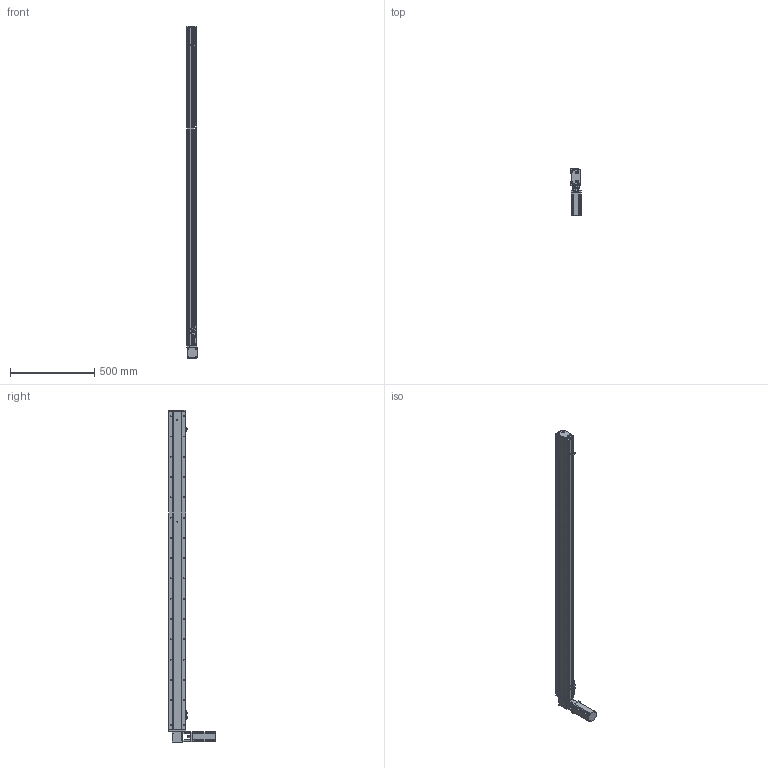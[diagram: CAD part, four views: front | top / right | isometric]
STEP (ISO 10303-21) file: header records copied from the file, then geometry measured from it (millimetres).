
FILE_DESCRIPTION (( 'STEP AP214' ), '1' );
FILE_NAME ('KSD100B-S1700-MLT-CM.STEP', '2019-10-26T06:03:36', ( '微软用户' ), ( '微软中国' ), 'SwSTEP 2.0', 'SolidWorks 2014', '' );
FILE_SCHEMA (( 'AUTOMOTIVE_DESIGN' ));
Length unit declared in the file: millimetre
Products named in the file (12): 100宽底板半封闭同步带1700行程; KSD100B-S1700-MLT-CM; 100宽安装板同步带带电机座400W,86; 100遵鎮湛假蚾啣1 ; 100宽防尘板1700行程-同步带; U倰嫖萇EEㄜSX672; 覜茼え100遵圉猾敕; 台达ECMA－C20604AS伺服电机; 100宽马达安装板同步带右; 100宽同步带安装板半封闭; 100宽马达安装板同步带; 100遵傷啣肮祭湍
Assembly tree (13 placements, depth 2):
  KSD100B-S1700-MLT-CM
    100宽底板半封闭同步带1700行程
    100遵傷啣肮祭湍
    100宽马达安装板同步带
    100宽同步带安装板半封闭
    100宽马达安装板同步带右
    台达ECMA－C20604AS伺服电机
    覜茼え100遵圉猾敕
    U倰嫖萇EEㄜSX672  x3
    100宽防尘板1700行程-同步带
    100遵鎮湛假蚾啣1 
    100宽安装板同步带带电机座400W,86
Bounding box: 61 x 275 x 1965 mm (x, y, z)
Volume: 4065469.5 mm3; surface area: 1371651.5 mm2
Topology: 14 solids, 14 shells, 1660 faces, 4701 edges, 2957 vertices
Faces by surface type: cylinder 874, plane 599, cone 187
Entity records: 60145 total; most frequent: CARTESIAN_POINT 13006, DIRECTION 8225, ORIENTED_EDGE 7934, EDGE_CURVE 3967, AXIS2_PLACEMENT_3D 3050, VERTEX_POINT 2581, VECTOR 2125, LINE 2125
